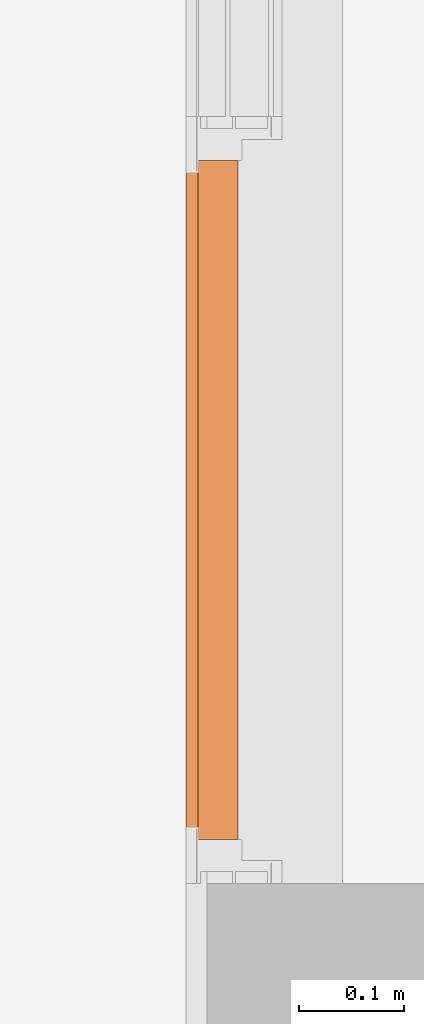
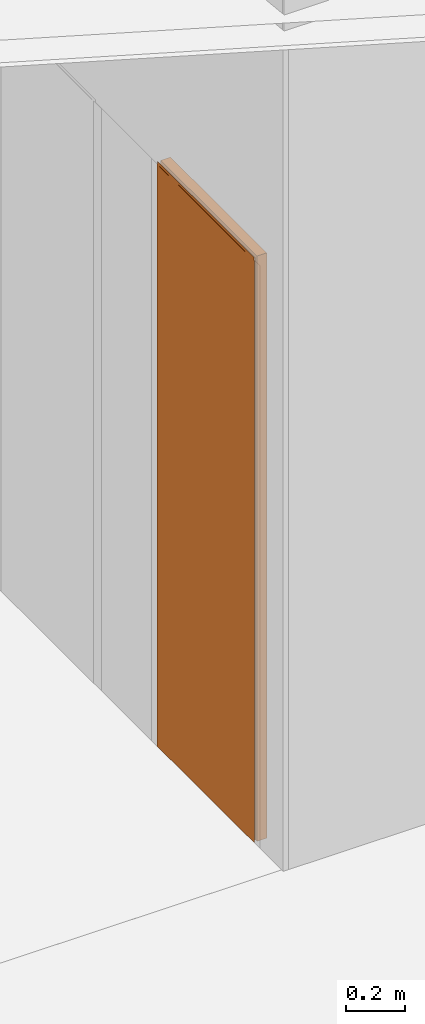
# One storey, part 43 of 43: 1 proxy, 1 element without a shape of its own.
"""IFC2X3 building model written with IfcOpenShell, lengths in millimetres."""

from ifc_helpers import new_model, entity, si_unit, converted_unit, derived_unit, money_unit, direction, frame, origin_with_axes, place, context, subcontext, project, spatial, open_shell, faceted_brep, surface_model, material, material_list, type_object, element, aggregate, save


model = new_model("IFC2X3")

# Units and contexts
model_context = context("Model", 3, precision=0.01, world=origin_with_axes(), true_north=direction((0.0, 1.0)))
body_context = subcontext(model_context, "Body", "Model", "MODEL_VIEW")
ifc_project = project(units=[si_unit("LENGTHUNIT", "METRE", prefix="MILLI"), si_unit("AREAUNIT", "SQUARE_METRE"), si_unit("VOLUMEUNIT", "CUBIC_METRE"), converted_unit("PLANEANGLEUNIT", "DEGREE", entity("IfcPlaneAngleMeasure", 0.0174532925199), si_unit("PLANEANGLEUNIT", "RADIAN"), dimensions=[0, 0, 0, 0, 0, 0, 0]), si_unit("SOLIDANGLEUNIT", "STERADIAN"), money_unit("EUR"), converted_unit("TIMEUNIT", "Year", entity("IfcTimeMeasure", 31556926.0), si_unit("TIMEUNIT", "SECOND"), dimensions=[0, 0, 1, 0, 0, 0, 0]), si_unit("MASSUNIT", "GRAM", prefix="KILO"), si_unit("THERMODYNAMICTEMPERATUREUNIT", "DEGREE_CELSIUS"), si_unit("LUMINOUSINTENSITYUNIT", "LUMEN"), si_unit("ENERGYUNIT", "JOULE", prefix="MEGA"), derived_unit("THERMALCONDUCTANCEUNIT", [(si_unit("POWERUNIT", "WATT"), 1), (si_unit("LENGTHUNIT", "METRE"), -1), (si_unit("THERMODYNAMICTEMPERATUREUNIT", "KELVIN"), -1)]), derived_unit("SPECIFICHEATCAPACITYUNIT", [(si_unit("ENERGYUNIT", "JOULE"), 1), (si_unit("MASSUNIT", "GRAM", prefix="KILO"), -1), (si_unit("THERMODYNAMICTEMPERATUREUNIT", "KELVIN"), -1)]), derived_unit("MASSDENSITYUNIT", [(si_unit("MASSUNIT", "GRAM", prefix="KILO"), 1), (si_unit("VOLUMEUNIT", "CUBIC_METRE"), -1)])], contexts=[model_context])

# Site, building, storey
site_placement = place(None, origin_with_axes())
site = spatial("IfcSite", under=ifc_project, at=site_placement, Name="L.Koidula tn 11b", CompositionType="ELEMENT")
building_placement = place(site_placement, origin_with_axes())
building = spatial("IfcBuilding", under=site, at=building_placement, Name="Rakvere Riigigümnaasium", CompositionType="ELEMENT")
storey_placement = place(building_placement, frame((0.0, 0.0, 6665.0), z_axis=(0.0, 0.0, 1.0), x_axis=(1.0, 0.0, 0.0)))
storey = spatial("IfcBuildingStorey", under=building, at=storey_placement, Name="3.korrus +6,66", CompositionType="ELEMENT", Elevation=6665.0)

# Curtain wall, proxy
curtain_wall_type = type_object("IfcCurtainWallType", Name="Curtain Wall Type", PredefinedType="NOTDEFINED")
curtain_wall_placement = place(storey_placement, frame((49969.604162, 20812.4526887, -4.66409044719e-06), z_axis=(0.0, 0.0, 1.0), x_axis=(1.0, 0.0, 0.0)))
curtain_wall = element("IfcCurtainWall", 1, at=curtain_wall_placement, inside=storey, type_object=curtain_wall_type, Name="SUS-03")
ifc_material_1 = material(Name="Alumiiniumprofiil (RAL 7021)")
ifc_material_2 = material(Name="MDF")
ifc_material_list = material_list([ifc_material_1, ifc_material_2])
building_element_proxy_type = type_object("IfcBuildingElementProxyType", Name="SU-Sile-90 3 x 2400 x 0", PredefinedType="NOTDEFINED")
proxy_placement = place(curtain_wall_placement, frame((0.0, -1070.00649072, 1200.00000697), z_axis=(0.0, 0.0, 1.0), x_axis=(0.0, -1.0, 0.0)))
proxy = element("IfcBuildingElementProxy", 2, at=proxy_placement, type_object=building_element_proxy_type, material=ifc_material_list, Name="Panel-Curtain-Wa-003", context=body_context, shape_type="SurfaceModel", body=[
    surface_model("IfcShellBasedSurfaceModel", [(-325.001917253, 0.0, -1200.00000697), (-313.001917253, 0.0, -1200.00000697), (-313.001917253, 0.0, 1200.00000697), (-325.001917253, 0.0, 1212.00000697)], [open_shell([[[0, 1, 2, 3]]])]),
    surface_model("IfcShellBasedSurfaceModel", [(-313.001917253, 0.0, 1200.00000697), (313.001913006, 0.0, 1200.00000697), (325.001913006, 0.0, 1212.00000697), (-325.001917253, 0.0, 1212.00000697)], [open_shell([[[0, 1, 2, 3]]])]),
    surface_model("IfcShellBasedSurfaceModel", [(313.001913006, 0.0, 1200.00000697), (313.001913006, 0.0, -1200.00000697), (325.001913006, 0.0, -1200.00000697), (325.001913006, 0.0, 1212.00000697)], [open_shell([[[0, 1, 2, 3]]])]),
    surface_model("IfcShellBasedSurfaceModel", [(-328.02803903, 0.0, -1200.00000697), (-313.001917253, 0.0, -1200.00000697), (-313.001917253, 0.0, 1200.00000697), (-328.02803903, 0.0, 1200.00000697)], [open_shell([[[0, 1, 2, 3]]])]),
    surface_model("IfcShellBasedSurfaceModel", [(328.028040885, 0.0, 1200.00000697), (313.001913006, 0.0, 1200.00000697), (313.001913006, 0.0, -1200.00000697), (328.028040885, 0.0, -1200.00000697)], [open_shell([[[0, 1, 2, 3]]])]),
    faceted_brep([(325.001913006, 11.8181818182, -1200.00000697), (-325.001917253, 11.8181818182, -1200.00000697), (-325.001917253, 50.0, -1200.00000697), (325.001913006, 50.0, -1200.00000697), (325.001913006, 11.8181818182, 1212.00000697), (-325.001917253, 11.8181818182, 1212.00000697), (-325.001917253, 50.0, 1212.00000697), (325.001913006, 50.0, 1212.00000697)], [[[0, 1, 2, 3]], [[0, 4, 5, 1]], [[1, 5, 6, 2]], [[3, 2, 6, 7]], [[4, 0, 3, 7]], [[5, 4, 7, 6]]]),
    faceted_brep([(313.858990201, 0.0, -1200.00000697), (-313.858994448, 0.0, -1200.00000697), (-313.858994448, 11.8181818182, -1200.00000697), (313.858990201, 11.8181818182, -1200.00000697), (313.858990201, 0.0, 1198.21714975), (-313.858994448, 0.0, 1198.21714975), (-313.858994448, 11.8181818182, 1198.21714975), (313.858990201, 11.8181818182, 1198.21714975)], [[[0, 1, 2, 3]], [[0, 4, 5, 1]], [[1, 5, 6, 2]], [[3, 2, 6, 7]], [[4, 0, 3, 7]], [[5, 4, 7, 6]]]),
])
aggregate(curtain_wall, [proxy])

save(model, "model.ifc")
